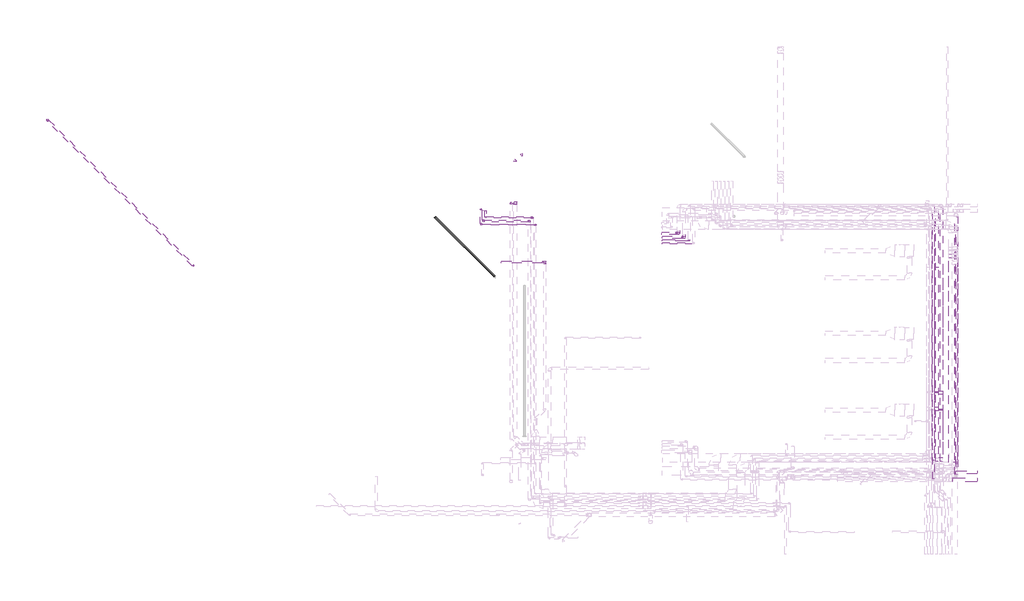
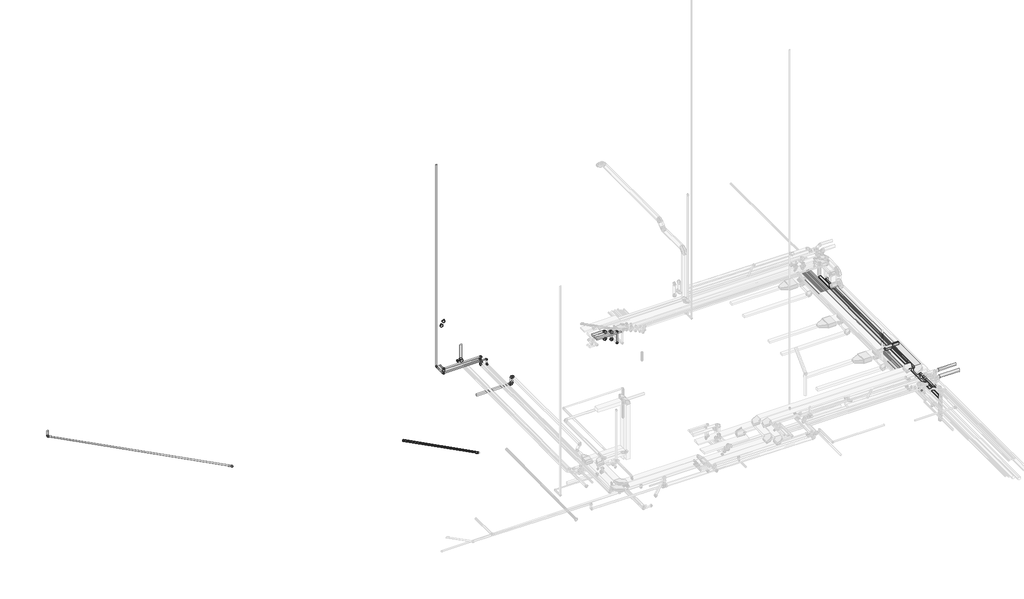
# One storey, part 9 of 12: 30 pipe segments, 22 pipe fittings, 5 duct segments, 4 duct fittings, 2 cable carrier segments.
"""IFC4 building model written with IfcOpenShell, lengths in millimetres."""

from ifc_helpers import new_model, si_unit, point, frame, frame_2d, origin, place, context, project, spatial, polyline, circle_curve, trimmed, segment, composite_curve, outline, extrude, transform, mapped, element, save
from ifc_brep_helpers import plane_surface, cylinder_surface, advanced_brep
from components import m_codo_rectangular_radio_apt_1_w_cd8a0157, m_codo_rectangular_radio_apt_1_w_e8c11995, pipe_fitting_ae9a0cda, pipe_fitting_aab77541, pipe_fitting_eb148d84, pipe_fitting_3b77712d, pipe_fitting_fa3f9604, pipe_fitting_87aeffad, pipe_fitting_e0fa64fe, pipe_fitting_ff364d05, pipe_fitting_573a4a97, pipe_fitting_e24cc5b0, pipe_fitting_6ea3b2c3, pipe_fitting_b6c68e63

model = new_model("IFC4")

# Units and contexts
model_context = context("Model", 3, world=origin())
ifc_project = project(units=[si_unit("LENGTHUNIT", "METRE", prefix="MILLI")], contexts=[model_context])

# Site, building, storey
site = spatial("IfcSite", under=ifc_project)
building = spatial("IfcBuilding", under=site)
storey = spatial("IfcBuildingStorey", under=building, Name="Nivell -01 PS1_PK", Elevation=1850.0)

# Cable carrier segments
placement = place(None, origin())
element("IfcCableCarrierSegment", 1, ObjectType="EL", at=placement, inside=storey, context=model_context, shape_type="SweptSolid", body=[
    extrude(outline(polyline([(33067.3540629, 1397.9984631), (33667.3540629, 1397.9984631), (33667.3540629, -12478.0770603), (33067.3540629, -12478.0770603), (33067.3540629, 1397.9984631)])), frame((0.0, 0.0, 4050.0), z_axis=(0.0, 0.0, 1.0), x_axis=(1.0, 0.0, 0.0)), (0.0, 0.0, 1.0), 100.0),
])
element("IfcCableCarrierSegment", 2, ObjectType="EL", at=placement, inside=storey, context=model_context, shape_type="SweptSolid", body=[
    extrude(outline(polyline([(33067.3540629, 1147.9859493), (33667.3540629, 1147.9859493), (33667.3540629, -12478.0770603), (33067.3540629, -12478.0770603), (33067.3540629, 1147.9859493)])), frame((0.0, 0.0, 4250.0), z_axis=(0.0, 0.0, 1.0), x_axis=(1.0, 0.0, 0.0)), (0.0, 0.0, 1.0), 100.0),
])

# Duct fittings
m_codo_rectangular_radio_apt_1_w_shape = m_codo_rectangular_radio_apt_1_w_cd8a0157(model_context)
element("IfcDuctFitting", 3, ObjectType="M_Codo rectangular - Radio : APT_1 W", at=placement, inside=storey, context=model_context, shape_type="MappedRepresentation", body=[
    mapped(m_codo_rectangular_radio_apt_1_w_shape, transform((32415.0957651, -7824.4030307, 4650.0), x_axis=(0.0, -1.0, 0.0), y_axis=(0.0, 0.0, 1.0), z_axis=(-1.0, 0.0, 0.0))),
])
element("IfcDuctFitting", 4, ObjectType="M_Codo rectangular - Radio : APT_1 W", at=placement, inside=storey, context=model_context, shape_type="MappedRepresentation", body=[
    mapped(m_codo_rectangular_radio_apt_1_w_shape, transform((32415.0957651, -8924.4030307, 5750.0), x_axis=(0.0, 1.0, 0.0), y_axis=(0.0, 0.0, -1.0), z_axis=(-1.0, 0.0, 0.0))),
])
m_codo_rectangular_radio_apt_1_w_2_shape = m_codo_rectangular_radio_apt_1_w_e8c11995(model_context)
element("IfcDuctFitting", 5, ObjectType="M_Codo rectangular - Radio : APT_1 W", at=placement, inside=storey, context=model_context, shape_type="MappedRepresentation", body=[
    mapped(m_codo_rectangular_radio_apt_1_w_2_shape, transform((6230.3976532, 856.9206384, 6150.0), x_axis=(0.0, 1.0, 0.0), y_axis=(0.0, 0.0, -1.0), z_axis=(-1.0, 0.0, 0.0))),
])
element("IfcDuctFitting", 6, ObjectType="M_Codo rectangular - Radio : APT_1 W", at=placement, inside=storey, context=model_context, shape_type="MappedRepresentation", body=[
    mapped(m_codo_rectangular_radio_apt_1_w_2_shape, transform((6230.3976532, 856.9206384, 5475.0), x_axis=(0.0, 0.0, -1.0), y_axis=(-1.0, 0.0, 0.0), z_axis=(0.0, 1.0, 0.0))),
])

# Duct segments
element("IfcDuctSegment", 7, ObjectType="APT_Fibra de vidre rígida", at=placement, inside=storey, context=model_context, shape_type="SweptSolid", body=[
    extrude(outline(polyline([(32665.0957651, -7741.5603182), (32165.0957651, -7741.5603182), (32165.0957651, 533.4396818), (32665.0957651, 533.4396818), (32665.0957651, -7741.5603182)])), frame((0.0, 0.0, 4550.0), z_axis=(0.0, 0.0, 1.0), x_axis=(1.0, 0.0, 0.0)), (0.0, 0.0, 1.0), 200.0),
])
element("IfcDuctSegment", 8, ObjectType="APT_Fibra de vidre rígida", at=placement, inside=storey, context=model_context, shape_type="SweptSolid", body=[
    extrude(outline(polyline([(32665.0957651, -12178.0770603), (32165.0957651, -12178.0770603), (32165.0957651, -9007.2457432), (32665.0957651, -9007.2457432), (32665.0957651, -12178.0770603)])), frame((0.0, 0.0, 5650.0), z_axis=(0.0, 0.0, 1.0), x_axis=(1.0, 0.0, 0.0)), (0.0, 0.0, 1.0), 200.0),
])
element("IfcDuctSegment", 9, ObjectType="APT_Fibra de vidre rígida", at=placement, inside=storey, context=model_context, shape_type="SweptSolid", body=[
    extrude(outline(polyline([(0.0, -500.0), (0.0, 0.0), (1389.9494937, 0.0), (1389.9494937, -500.0), (0.0, -500.0)])), frame((32665.0957651, -7953.6923526, 4637.8679656), z_axis=(0.0, 0.7071067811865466, 0.7071067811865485), x_axis=(0.0, -0.7071067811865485, 0.7071067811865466)), (0.0, 0.0, 1.0), 200.0),
])
element("IfcDuctSegment", 10, ObjectType="APT_Fibra de vidre rígida", at=placement, inside=storey, context=model_context, shape_type="SweptSolid", body=[
    extrude(outline(polyline([(6080.3976532, 931.9206384), (6080.3976532, 781.9206384), (3351.1206995, 781.9206384), (3351.1206995, 931.9206384), (6080.3976532, 931.9206384)])), frame((0.0, 0.0, 5400.0), z_axis=(0.0, 0.0, 1.0), x_axis=(1.0, 0.0, 0.0)), (0.0, 0.0, 1.0), 150.0),
])
element("IfcDuctSegment", 11, ObjectType="APT_Fibra de vidre rígida", at=placement, inside=storey, context=model_context, shape_type="SweptSolid", body=[
    extrude(outline(polyline([(6305.3976532, 781.9206384), (6155.3976532, 781.9206384), (6155.3976532, 931.9206384), (6305.3976532, 931.9206384), (6305.3976532, 781.9206384)])), frame((0.0, 0.0, 5625.0), z_axis=(0.0, 0.0, 1.0), x_axis=(1.0, 0.0, 0.0)), (0.0, 0.0, 1.0), 375.0),
])

# Pipe fittings
pipe_fitting_shape = pipe_fitting_ae9a0cda(model_context)
element("IfcPipeFitting", 12, ObjectType="M_Codo - Genérico : Estándar", at=placement, inside=storey, context=model_context, shape_type="MappedRepresentation", body=[
    mapped(pipe_fitting_shape, transform((4699.7867322, 7990.2242431, 7193.0048372), x_axis=(-0.9999500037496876, 0.0, -0.009999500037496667), y_axis=(4.141685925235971e-05, -0.9999914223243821, -0.004141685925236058), z_axis=(-0.009999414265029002, -0.004141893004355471, 0.9999414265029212))),
])
pipe_fitting_2_shape = pipe_fitting_aab77541(model_context)
element("IfcPipeFitting", 13, ObjectType="M_Codo - Genérico : Estándar", at=placement, inside=storey, context=model_context, shape_type="MappedRepresentation", body=[
    mapped(pipe_fitting_2_shape, transform((4010.393115, 4779.6569696, 5866.4205899), x_axis=(0.0, 0.0, -1.0), y_axis=(0.0, -1.0, 0.0), z_axis=(-1.0, 0.0, 0.0))),
])
pipe_fitting_3_shape = pipe_fitting_eb148d84(model_context)
element("IfcPipeFitting", 14, ObjectType="M_Codo - Genérico : Estándar", at=placement, inside=storey, context=model_context, shape_type="MappedRepresentation", body=[
    mapped(pipe_fitting_3_shape, transform((4287.2876623, 4781.2592396, 5862.7256155), x_axis=(-0.00010438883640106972, 0.0, -0.9999999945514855), y_axis=(1.0438883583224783e-06, -0.9999999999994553, -1.0897029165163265e-10), z_axis=(-0.9999999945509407, -1.0438883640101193e-06, 0.00010438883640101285))),
])
pipe_fitting_4_shape = pipe_fitting_3b77712d(model_context)
element("IfcPipeFitting", 15, ObjectType="M_Codo - Genérico : Estándar", at=placement, inside=storey, context=model_context, shape_type="MappedRepresentation", body=[
    mapped(pipe_fitting_4_shape, transform((15836.9686999, 2293.032262, 4795.0), x_axis=(-4.25689019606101e-05, -0.9999999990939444, 0.0), y_axis=(0.0, 0.0, -1.0000000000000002), z_axis=(0.9999999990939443, -4.256890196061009e-05, 0.0))),
])
element("IfcPipeFitting", 16, ObjectType="M_Codo - Genérico : Estándar", at=placement, inside=storey, context=model_context, shape_type="MappedRepresentation", body=[
    mapped(pipe_fitting_4_shape, transform((15836.9686999, 2293.032262, 5850.0), x_axis=(0.0, 0.0, 1.0), y_axis=(0.999999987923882, -0.00015540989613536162, 0.0), z_axis=(0.00015540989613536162, 0.999999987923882, 0.0))),
])
pipe_fitting_5_shape = pipe_fitting_fa3f9604(model_context)
element("IfcPipeFitting", 17, ObjectType="M_Codo - Genérico : Estándar", at=placement, inside=storey, context=model_context, shape_type="MappedRepresentation", body=[
    mapped(pipe_fitting_5_shape, transform((5410.4381725, 3815.2793628, 5895.0), x_axis=(4.15346841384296e-05, 0.999999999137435, 0.0), y_axis=(0.0, 0.0, 1.0), z_axis=(0.999999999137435, -4.15346841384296e-05, 0.0))),
])
element("IfcPipeFitting", 18, ObjectType="M_Codo - Genérico : Estándar", at=placement, inside=storey, context=model_context, shape_type="MappedRepresentation", body=[
    mapped(pipe_fitting_5_shape, transform((5410.4381725, 3815.2793628, 6355.0), x_axis=(0.0, 0.0, 1.0), y_axis=(-1.0, 0.0, 0.0), z_axis=(0.0, -1.0, 0.0))),
])
element("IfcPipeFitting", 19, ObjectType="M_Codo - Genérico : Estándar", at=placement, inside=storey, context=model_context, shape_type="MappedRepresentation", body=[
    mapped(pipe_fitting_5_shape, transform((2292.2371387, 3815.2793628, 6355.0), x_axis=(0.0, -1.0, 0.0), y_axis=(1.0, 0.0, 0.0), z_axis=(0.0, 0.0, 1.0))),
])
pipe_fitting_6_shape = pipe_fitting_87aeffad(model_context)
element("IfcPipeFitting", 20, ObjectType="M_Codo - Genérico : Estándar", at=placement, inside=storey, context=model_context, shape_type="MappedRepresentation", body=[
    mapped(pipe_fitting_6_shape, transform((2006.123299, 4345.0540394, 6345.0), x_axis=(0.0, 0.0, -1.0), y_axis=(0.0, -1.0, 0.0), z_axis=(-1.0, 0.0, 0.0))),
])
element("IfcPipeFitting", 21, ObjectType="M_Codo - Genérico : Estándar", at=placement, inside=storey, context=model_context, shape_type="MappedRepresentation", body=[
    mapped(pipe_fitting_6_shape, transform((5610.4183585, 3341.4766977, 5905.0), x_axis=(4.172494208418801e-05, 0.9999999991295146, 0.0), y_axis=(0.0, 0.0, 1.0), z_axis=(0.9999999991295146, -4.172494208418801e-05, 0.0))),
])
element("IfcPipeFitting", 22, ObjectType="M_Codo - Genérico : Estándar", at=placement, inside=storey, context=model_context, shape_type="MappedRepresentation", body=[
    mapped(pipe_fitting_6_shape, transform((5610.4183585, 3341.4766977, 6345.0), x_axis=(0.0, 0.0, 1.0), y_axis=(-0.9999999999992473, 1.2270001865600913e-06, 0.0), z_axis=(-1.2270001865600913e-06, -0.9999999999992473, 0.0))),
])
pipe_fitting_7_shape = pipe_fitting_e0fa64fe(model_context)
element("IfcPipeFitting", 23, ObjectType="M_Codo - Genérico : Estándar", at=placement, inside=storey, context=model_context, shape_type="MappedRepresentation", body=[
    mapped(pipe_fitting_7_shape, transform((5210.4279515, 3570.2793628, 5887.5), x_axis=(4.1534097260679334e-05, 0.9999999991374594, 0.0), y_axis=(0.0, 0.0, 1.0), z_axis=(0.9999999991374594, -4.1534097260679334e-05, 0.0))),
])
element("IfcPipeFitting", 24, ObjectType="M_Codo - Genérico : Estándar", at=placement, inside=storey, context=model_context, shape_type="MappedRepresentation", body=[
    mapped(pipe_fitting_7_shape, transform((5210.4279515, 3570.2793628, 6362.5), x_axis=(0.0, 0.0, 1.0), y_axis=(-1.0, 0.0, 0.0), z_axis=(0.0, -1.0, 0.0))),
])
element("IfcPipeFitting", 25, ObjectType="M_Codo - Genérico : Estándar", at=placement, inside=storey, context=model_context, shape_type="MappedRepresentation", body=[
    mapped(pipe_fitting_7_shape, transform((2147.2371387, 3570.2793628, 6362.5), x_axis=(0.0, -1.0, 0.0), y_axis=(1.0, 0.0, 0.0), z_axis=(0.0, 0.0, 1.0))),
])
pipe_fitting_8_shape = pipe_fitting_ff364d05(model_context)
element("IfcPipeFitting", 26, ObjectType="M_Codo - Genérico : Estándar", at=placement, inside=storey, context=model_context, shape_type="MappedRepresentation", body=[
    mapped(pipe_fitting_8_shape, transform((4286.9292509, 7577.3667618, 7187.1661507), x_axis=(2.387406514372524e-06, 0.999950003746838, 0.009999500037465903), y_axis=(-0.999991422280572, 4.3804224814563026e-05, -0.004141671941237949), z_axis=(-0.004141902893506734, -0.009999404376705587, 0.9999414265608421))),
])
pipe_fitting_9_shape = pipe_fitting_573a4a97(model_context)
element("IfcPipeFitting", 27, ObjectType="M_Codo - Genérico : Estándar", at=placement, inside=storey, context=model_context, shape_type="MappedRepresentation", body=[
    mapped(pipe_fitting_9_shape, transform((2006.123299, 3341.4809975, 6345.0), x_axis=(0.0, -1.0, 0.0), y_axis=(1.0, 0.0, 0.0), z_axis=(0.0, 0.0, 1.0))),
])
pipe_fitting_10_shape = pipe_fitting_e24cc5b0(model_context)
element("IfcPipeFitting", 28, ObjectType="M_Codo - Genérico : Estándar", at=placement, inside=storey, context=model_context, shape_type="MappedRepresentation", body=[
    mapped(pipe_fitting_10_shape, transform((-26800.5772832, 10293.1021226, 6687.051395), x_axis=(-4.927413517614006e-05, 3.484774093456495e-05, -0.9999999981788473), y_axis=(0.7070892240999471, -0.7071243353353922, -5.94828957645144e-05), z_axis=(-0.7071243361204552, -0.7070892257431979, 1.0202477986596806e-05))),
])
pipe_fitting_11_shape = pipe_fitting_6ea3b2c3(model_context)
element("IfcPipeFitting", 29, ObjectType="M_Codo - Genérico : Estándar", at=placement, inside=storey, context=model_context, shape_type="MappedRepresentation", body=[
    mapped(pipe_fitting_11_shape, transform((-17109.8207429, 601.8645148, 6550.0), x_axis=(0.7070893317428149, -0.7070535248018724, -0.009999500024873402), y_axis=(0.7070535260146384, 0.7071479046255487, -0.004141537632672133), z_axis=(0.009999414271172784, -0.004141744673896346, 0.9999414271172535))),
])
pipe_fitting_12_shape = pipe_fitting_b6c68e63(model_context)
element("IfcPipeFitting", 30, ObjectType="Codo 90º Soldadura a Tope SDR 11 BluePipe : Estándar", at=placement, inside=storey, context=model_context, shape_type="MappedRepresentation", body=[
    mapped(pipe_fitting_12_shape, transform((15117.1652487, 2762.9498438, 5850.0019674), x_axis=(0.9999999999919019, -2.5073508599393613e-06, -3.1479117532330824e-06), y_axis=(3.147912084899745e-06, 1.322737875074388e-07, 0.9999999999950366), z_axis=(-2.5073504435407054e-06, -0.9999999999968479, 1.3228168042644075e-07))),
])
element("IfcPipeFitting", 31, ObjectType="Codo 90º Soldadura a Tope SDR 11 BluePipe : Estándar", at=placement, inside=storey, context=model_context, shape_type="MappedRepresentation", body=[
    mapped(pipe_fitting_12_shape, transform((15117.1633647, 2762.9497843, 5049.9997398), x_axis=(4.769613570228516e-07, 1.3228287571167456e-07, -0.9999999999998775), y_axis=(-4.3362156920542e-05, -0.999999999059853, -1.3230355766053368e-07), z_axis=(-0.999999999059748, 4.336215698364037e-05, -4.769556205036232e-07))),
])
element("IfcPipeFitting", 32, ObjectType="Codo 90º Soldadura a Tope SDR 11 BluePipe : Estándar", at=placement, inside=storey, context=model_context, shape_type="MappedRepresentation", body=[
    mapped(pipe_fitting_12_shape, transform((15497.1730933, 2492.9250903, 5050.0), x_axis=(-4.302880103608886e-05, -0.9999999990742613, 0.0), y_axis=(0.0, 0.0, -1.0000000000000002), z_axis=(0.9999999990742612, -4.302880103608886e-05, 0.0))),
])
element("IfcPipeFitting", 33, ObjectType="Codo 90º Soldadura a Tope SDR 11 BluePipe : Estándar", at=placement, inside=storey, context=model_context, shape_type="MappedRepresentation", body=[
    mapped(pipe_fitting_12_shape, transform((15497.1730933, 2492.9250903, 5850.0), x_axis=(0.0, 0.0, 1.0), y_axis=(0.999999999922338, -1.2462908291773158e-05, 0.0), z_axis=(1.2462908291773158e-05, 0.999999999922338, 0.0))),
])

# Pipe segments
element("IfcPipeSegment", 34, ObjectType="PVC_Baixant", at=placement, inside=storey, context=model_context, shape_type="SweptSolid", body=[
    extrude(outline(composite_curve([segment(trimmed(circle_curve(frame_2d((0.0, -62.5)), 62.5), [point((-62.5, -62.5000004))], [point((-4e-07, 0.0))], False, "CARTESIAN"), True, "CONTINUOUS"), segment(trimmed(circle_curve(frame_2d((0.0, -62.5)), 62.5), [point((-4e-07, 0.0))], [point((62.5, -62.4999996))], False, "CARTESIAN"), True, "CONTINUOUS"), segment(trimmed(circle_curve(frame_2d((0.0, -62.5)), 62.5), [point((62.5, -62.4999996))], [point((3e-07, -125.0))], False, "CARTESIAN"), True, "CONTINUOUS"), segment(trimmed(circle_curve(frame_2d((0.0, -62.5)), 62.5), [point((3e-07, -125.0))], [point((-62.5, -62.5000004))], False, "CARTESIAN"), True, "CONTINUOUS")], self_intersect=False)), frame((-26800.573798, 10230.5996581, 6757.7762323), z_axis=(-5.91012245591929e-05, -9.706712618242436e-05, 0.9999999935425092), x_axis=(-0.9999999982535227, 5.7367870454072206e-09, -5.910122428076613e-05)), (0.0, 0.0, 1.0), 412.2177965),
])
element("IfcPipeSegment", 35, ObjectType="PVC_Baixant", at=placement, inside=storey, context=model_context, shape_type="SweptSolid", body=[
    extrude(outline(composite_curve([segment(trimmed(circle_curve(frame_2d((0.0, -62.5000001)), 62.5), [point((-62.4968759, -63.1249064))], [point((-0.6249063, -0.0031242))], False, "CARTESIAN"), True, "CONTINUOUS"), segment(trimmed(circle_curve(frame_2d((0.0, -62.5000001)), 62.5), [point((-0.6249063, -0.0031242))], [point((62.4968759, -61.8750937))], False, "CARTESIAN"), True, "CONTINUOUS"), segment(trimmed(circle_curve(frame_2d((0.0, -62.5000001)), 62.5), [point((62.4968759, -61.8750937))], [point((0.6249064, -124.9968759))], False, "CARTESIAN"), True, "CONTINUOUS"), segment(trimmed(circle_curve(frame_2d((0.0, -62.5000001)), 62.5), [point((0.6249064, -124.9968759))], [point((-62.4968759, -63.1249064))], False, "CARTESIAN"), True, "CONTINUOUS")], self_intersect=False)), frame((-17130.7418112, 623.6682967, 6487.8021098), z_axis=(-0.7070538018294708, 0.7070890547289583, 0.009999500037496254), x_axis=(0.7071597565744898, 0.7069831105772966, 0.00999800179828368)), (0.0, 0.0, 1.0), 13605.5062464),
])
element("IfcPipeSegment", 36, ObjectType="PP_FN", at=placement, inside=storey, context=model_context, shape_type="SweptSolid", body=[
    extrude(outline(composite_curve([segment(trimmed(circle_curve(frame_2d((6345.0, 2006.123299)), 45.0), [point((6345.0, 2051.123299))], [point((6390.0, 2006.123299))], False, "CARTESIAN"), True, "CONTINUOUS"), segment(trimmed(circle_curve(frame_2d((6345.0, 2006.123299)), 45.0), [point((6390.0, 2006.123299))], [point((6345.0, 1961.123299))], False, "CARTESIAN"), True, "CONTINUOUS"), segment(trimmed(circle_curve(frame_2d((6345.0, 2006.123299)), 45.0), [point((6345.0, 1961.123299))], [point((6300.0, 2006.123299))], False, "CARTESIAN"), True, "CONTINUOUS"), segment(trimmed(circle_curve(frame_2d((6345.0, 2006.123299)), 45.0), [point((6300.0, 2006.123299))], [point((6345.0, 2051.123299))], False, "CARTESIAN"), True, "CONTINUOUS")], self_intersect=False)), frame((0.0, 3393.8684332, 0.0), z_axis=(0.0, 1.0, 0.0), x_axis=(0.0, 0.0, 1.0)), (0.0, 0.0, 1.0), 898.7981062),
])
element("IfcPipeSegment", 37, ObjectType="PP_FN", at=placement, inside=storey, context=model_context, shape_type="SweptSolid", body=[
    extrude(outline(composite_curve([segment(trimmed(circle_curve(frame_2d((2006.123299, 4345.0540394)), 45.0), [point((2051.123299, 4345.0540394))], [point((2006.123299, 4300.0540394))], False, "CARTESIAN"), True, "CONTINUOUS"), segment(trimmed(circle_curve(frame_2d((2006.123299, 4345.0540394)), 45.0), [point((2006.123299, 4300.0540394))], [point((1961.123299, 4345.0540394))], False, "CARTESIAN"), True, "CONTINUOUS"), segment(trimmed(circle_curve(frame_2d((2006.123299, 4345.0540394)), 45.0), [point((1961.123299, 4345.0540394))], [point((2006.123299, 4390.0540394))], False, "CARTESIAN"), True, "CONTINUOUS"), segment(trimmed(circle_curve(frame_2d((2006.123299, 4345.0540394)), 45.0), [point((2006.123299, 4390.0540394))], [point((2051.123299, 4345.0540394))], False, "CARTESIAN"), True, "CONTINUOUS")], self_intersect=False)), frame((0.0, 0.0, 6397.3875), z_axis=(0.0, 0.0, 1.0), x_axis=(1.0, 0.0, 0.0)), (0.0, 0.0, 1.0), 17656.98125),
])
element("IfcPipeSegment", 38, ObjectType="PP_FN", at=placement, inside=storey, context=model_context, shape_type="SweptSolid", body=[
    extrude(outline(composite_curve([segment(trimmed(circle_curve(frame_2d((6355.0, 2292.2371387)), 55.0), [point((6355.0, 2237.2371387))], [point((6300.0, 2292.2371387))], False, "CARTESIAN"), True, "CONTINUOUS"), segment(trimmed(circle_curve(frame_2d((6355.0, 2292.2371387)), 55.0), [point((6300.0, 2292.2371387))], [point((6355.0, 2347.2371387))], False, "CARTESIAN"), True, "CONTINUOUS"), segment(trimmed(circle_curve(frame_2d((6355.0, 2292.2371387)), 55.0), [point((6355.0, 2347.2371387))], [point((6410.0, 2292.2371387))], False, "CARTESIAN"), True, "CONTINUOUS"), segment(trimmed(circle_curve(frame_2d((6355.0, 2292.2371387)), 55.0), [point((6410.0, 2292.2371387))], [point((6355.0, 2237.2371387))], False, "CARTESIAN"), True, "CONTINUOUS")], self_intersect=False)), frame((0.0, 3878.2168628, 0.0), z_axis=(0.0, 1.0, 0.0), x_axis=(0.0, 0.0, 1.0)), (0.0, 0.0, 1.0), 402.0625),
])
element("IfcPipeSegment", 39, ObjectType="PP_FN", at=placement, inside=storey, context=model_context, shape_type="SweptSolid", body=[
    extrude(outline(composite_curve([segment(trimmed(circle_curve(frame_2d((3815.2793628, 6355.0)), 55.0), [point((3870.2793628, 6355.0))], [point((3815.2793628, 6300.0))], False, "CARTESIAN"), True, "CONTINUOUS"), segment(trimmed(circle_curve(frame_2d((3815.2793628, 6355.0)), 55.0), [point((3815.2793628, 6300.0))], [point((3760.2793628, 6355.0))], False, "CARTESIAN"), True, "CONTINUOUS"), segment(trimmed(circle_curve(frame_2d((3815.2793628, 6355.0)), 55.0), [point((3760.2793628, 6355.0))], [point((3815.2793628, 6410.0))], False, "CARTESIAN"), True, "CONTINUOUS"), segment(trimmed(circle_curve(frame_2d((3815.2793628, 6355.0)), 55.0), [point((3815.2793628, 6410.0))], [point((3870.2793628, 6355.0))], False, "CARTESIAN"), True, "CONTINUOUS")], self_intersect=False)), frame((2355.1746387, 0.0, 0.0), z_axis=(1.0, 0.0, 0.0), x_axis=(0.0, 1.0, 0.0)), (0.0, 0.0, 1.0), 2992.3260338),
])
element("IfcPipeSegment", 40, ObjectType="PP_FN", at=placement, inside=storey, context=model_context, shape_type="SweptSolid", body=[
    extrude(outline(composite_curve([segment(trimmed(circle_curve(frame_2d((6362.5, 2147.2371387)), 62.5), [point((6362.5, 2209.7371387))], [point((6425.0, 2147.2371387))], False, "CARTESIAN"), True, "CONTINUOUS"), segment(trimmed(circle_curve(frame_2d((6362.5, 2147.2371387)), 62.5), [point((6425.0, 2147.2371387))], [point((6362.5, 2084.7371387))], False, "CARTESIAN"), True, "CONTINUOUS"), segment(trimmed(circle_curve(frame_2d((6362.5, 2147.2371387)), 62.5), [point((6362.5, 2084.7371387))], [point((6300.0, 2147.2371387))], False, "CARTESIAN"), True, "CONTINUOUS"), segment(trimmed(circle_curve(frame_2d((6362.5, 2147.2371387)), 62.5), [point((6300.0, 2147.2371387))], [point((6362.5, 2209.7371387))], False, "CARTESIAN"), True, "CONTINUOUS")], self_intersect=False)), frame((0.0, 3641.7168628, 0.0), z_axis=(0.0, 1.0, 0.0), x_axis=(0.0, 0.0, 1.0)), (0.0, 0.0, 1.0), 638.5625),
])
element("IfcPipeSegment", 41, ObjectType="PP_FN", at=placement, inside=storey, context=model_context, shape_type="SweptSolid", body=[
    extrude(outline(composite_curve([segment(trimmed(circle_curve(frame_2d((3570.2793628, 6362.5)), 62.5), [point((3632.7793628, 6362.5))], [point((3570.2793628, 6300.0))], False, "CARTESIAN"), True, "CONTINUOUS"), segment(trimmed(circle_curve(frame_2d((3570.2793628, 6362.5)), 62.5), [point((3570.2793628, 6300.0))], [point((3507.7793628, 6362.5))], False, "CARTESIAN"), True, "CONTINUOUS"), segment(trimmed(circle_curve(frame_2d((3570.2793628, 6362.5)), 62.5), [point((3507.7793628, 6362.5))], [point((3570.2793628, 6425.0))], False, "CARTESIAN"), True, "CONTINUOUS"), segment(trimmed(circle_curve(frame_2d((3570.2793628, 6362.5)), 62.5), [point((3570.2793628, 6425.0))], [point((3632.7793628, 6362.5))], False, "CARTESIAN"), True, "CONTINUOUS")], self_intersect=False)), frame((2218.6746387, 0.0, 0.0), z_axis=(1.0, 0.0, 0.0), x_axis=(0.0, 1.0, 0.0)), (0.0, 0.0, 1.0), 2920.3158128),
])
element("IfcPipeSegment", 42, ObjectType="PP_FN", at=placement, inside=storey, context=model_context, shape_type="SweptSolid", body=[
    extrude(outline(composite_curve([segment(trimmed(circle_curve(frame_2d((0.0, 45.0)), 45.0), [point((-45.0, 45.0))], [point((0.0, 90.0))], False, "CARTESIAN"), True, "CONTINUOUS"), segment(trimmed(circle_curve(frame_2d((0.0, 45.0)), 45.0), [point((0.0, 90.0))], [point((45.0, 45.0))], False, "CARTESIAN"), True, "CONTINUOUS"), segment(trimmed(circle_curve(frame_2d((0.0, 45.0)), 45.0), [point((45.0, 45.0))], [point((0.0, 0.0))], False, "CARTESIAN"), True, "CONTINUOUS"), segment(trimmed(circle_curve(frame_2d((0.0, 45.0)), 45.0), [point((0.0, 0.0))], [point((-45.0, 45.0))], False, "CARTESIAN"), True, "CONTINUOUS")], self_intersect=False)), frame((5558.0308585, 3341.476762, 6300.0), z_axis=(-0.9999999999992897, 1.1919382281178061e-06, 0.0), x_axis=(-1.1919382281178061e-06, -0.9999999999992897, 0.0)), (0.0, 0.0, 1.0), 3499.5201238),
])
element("IfcPipeSegment", 43, ObjectType="PVC_Baixant", at=placement, inside=storey, context=model_context, shape_type="SweptSolid", body=[
    extrude(outline(composite_curve([segment(trimmed(circle_curve(frame_2d((0.0, -62.5000001)), 62.5), [point((-62.4968759, -63.1249063))], [point((-0.6249063, -0.0031241))], False, "CARTESIAN"), True, "CONTINUOUS"), segment(trimmed(circle_curve(frame_2d((0.0, -62.5000001)), 62.5), [point((-0.6249063, -0.0031241))], [point((62.4968759, -61.8750938))], False, "CARTESIAN"), True, "CONTINUOUS"), segment(trimmed(circle_curve(frame_2d((0.0, -62.5000001)), 62.5), [point((62.4968759, -61.8750938))], [point((0.6249063, -124.9968759))], False, "CARTESIAN"), True, "CONTINUOUS"), segment(trimmed(circle_curve(frame_2d((0.0, -62.5000001)), 62.5), [point((0.6249063, -124.9968759))], [point((-62.4968759, -63.1249063))], False, "CARTESIAN"), True, "CONTINUOUS")], self_intersect=False)), frame((2910.2523588, -114.5385303, 1116.7132316), z_axis=(-0.7070537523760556, 0.7070891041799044, 0.009999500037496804), x_axis=(0.7071598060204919, 0.7069830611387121, 0.009998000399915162)), (0.0, 0.0, 1.0), 5599.0585636),
])
element("IfcPipeSegment", 44, ObjectType="PVC_Baixant", at=placement, inside=storey, context=model_context, shape_type="SweptSolid", body=[
    extrude(outline(composite_curve([segment(trimmed(circle_curve(frame_2d((0.0, 100.0)), 100.0), [point((-100.0, 100.0))], [point((0.0, 200.0))], False, "CARTESIAN"), True, "CONTINUOUS"), segment(trimmed(circle_curve(frame_2d((0.0, 100.0)), 100.0), [point((0.0, 200.0))], [point((100.0, 100.0))], False, "CARTESIAN"), True, "CONTINUOUS"), segment(trimmed(circle_curve(frame_2d((0.0, 100.0)), 100.0), [point((100.0, 100.0))], [point((0.0, 0.0))], False, "CARTESIAN"), True, "CONTINUOUS"), segment(trimmed(circle_curve(frame_2d((0.0, 100.0)), 100.0), [point((0.0, 0.0))], [point((-100.0, 100.0))], False, "CARTESIAN"), True, "CONTINUOUS")], self_intersect=False)), frame((4287.298983, 4681.2592396, 5971.1732167), z_axis=(0.00010387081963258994, 0.0, 0.9999999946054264), x_axis=(0.9999999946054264, 0.0, -0.00010387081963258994)), (0.0, 0.0, 1.0), 1206.7953442),
])
element("IfcPipeSegment", 45, ObjectType="PP_FN", at=placement, inside=storey, context=model_context, shape_type="SweptSolid", body=[
    extrude(outline(composite_curve([segment(trimmed(circle_curve(frame_2d((5410.4381725, 3815.2793628)), 55.0), [point((5355.4381725, 3815.2793628))], [point((5410.4381725, 3870.2793628))], False, "CARTESIAN"), True, "CONTINUOUS"), segment(trimmed(circle_curve(frame_2d((5410.4381725, 3815.2793628)), 55.0), [point((5410.4381725, 3870.2793628))], [point((5465.4381725, 3815.2793628))], False, "CARTESIAN"), True, "CONTINUOUS"), segment(trimmed(circle_curve(frame_2d((5410.4381725, 3815.2793628)), 55.0), [point((5465.4381725, 3815.2793628))], [point((5410.4381725, 3760.2793628))], False, "CARTESIAN"), True, "CONTINUOUS"), segment(trimmed(circle_curve(frame_2d((5410.4381725, 3815.2793628)), 55.0), [point((5410.4381725, 3760.2793628))], [point((5355.4381725, 3815.2793628))], False, "CARTESIAN"), True, "CONTINUOUS")], self_intersect=False)), frame((0.0, 0.0, 5957.9375), z_axis=(0.0, 0.0, 1.0), x_axis=(1.0, 0.0, 0.0)), (0.0, 0.0, 1.0), 334.125),
])
element("IfcPipeSegment", 46, ObjectType="PP_FN", at=placement, inside=storey, context=model_context, shape_type="SweptSolid", body=[
    extrude(outline(composite_curve([segment(trimmed(circle_curve(frame_2d((5210.4279515, 3570.2793628)), 62.5), [point((5147.9279515, 3570.2793628))], [point((5210.4279515, 3632.7793628))], False, "CARTESIAN"), True, "CONTINUOUS"), segment(trimmed(circle_curve(frame_2d((5210.4279515, 3570.2793628)), 62.5), [point((5210.4279515, 3632.7793628))], [point((5272.9279515, 3570.2793628))], False, "CARTESIAN"), True, "CONTINUOUS"), segment(trimmed(circle_curve(frame_2d((5210.4279515, 3570.2793628)), 62.5), [point((5272.9279515, 3570.2793628))], [point((5210.4279515, 3507.7793628))], False, "CARTESIAN"), True, "CONTINUOUS"), segment(trimmed(circle_curve(frame_2d((5210.4279515, 3570.2793628)), 62.5), [point((5210.4279515, 3507.7793628))], [point((5147.9279515, 3570.2793628))], False, "CARTESIAN"), True, "CONTINUOUS")], self_intersect=False)), frame((0.0, 0.0, 5958.9375), z_axis=(0.0, 0.0, 1.0), x_axis=(1.0, 0.0, 0.0)), (0.0, 0.0, 1.0), 332.125),
])
element("IfcPipeSegment", 47, ObjectType="PP_FN", at=placement, inside=storey, context=model_context, shape_type="SweptSolid", body=[
    extrude(outline(composite_curve([segment(trimmed(circle_curve(frame_2d((5610.4183585, 3341.4766977)), 45.0), [point((5565.4183585, 3341.4766977))], [point((5610.4183585, 3386.4766977))], False, "CARTESIAN"), True, "CONTINUOUS"), segment(trimmed(circle_curve(frame_2d((5610.4183585, 3341.4766977)), 45.0), [point((5610.4183585, 3386.4766977))], [point((5655.4183585, 3341.4766977))], False, "CARTESIAN"), True, "CONTINUOUS"), segment(trimmed(circle_curve(frame_2d((5610.4183585, 3341.4766977)), 45.0), [point((5655.4183585, 3341.4766977))], [point((5610.4183585, 3296.4766977))], False, "CARTESIAN"), True, "CONTINUOUS"), segment(trimmed(circle_curve(frame_2d((5610.4183585, 3341.4766977)), 45.0), [point((5610.4183585, 3296.4766977))], [point((5565.4183585, 3341.4766977))], False, "CARTESIAN"), True, "CONTINUOUS")], self_intersect=False)), frame((0.0, 0.0, 5957.3875), z_axis=(0.0, 0.0, 1.0), x_axis=(1.0, 0.0, 0.0)), (0.0, 0.0, 1.0), 335.225),
])
element("IfcPipeSegment", 48, ObjectType="PPR_CLI_Aquatherm Blue Pipe", at=placement, inside=storey, context=model_context, shape_type="SweptSolid", body=[
    extrude(outline(composite_curve([segment(trimmed(circle_curve(frame_2d((0.0, -80.0)), 80.0), [point((-80.0, -80.0))], [point((0.0, 0.0))], False, "CARTESIAN"), True, "CONTINUOUS"), segment(trimmed(circle_curve(frame_2d((0.0, -80.0)), 80.0), [point((0.0, 0.0))], [point((79.9999999, -80.0))], False, "CARTESIAN"), True, "CONTINUOUS"), segment(trimmed(circle_curve(frame_2d((0.0, -80.0)), 80.0), [point((79.9999999, -80.0))], [point((0.0, -160.0))], False, "CARTESIAN"), True, "CONTINUOUS"), segment(trimmed(circle_curve(frame_2d((0.0, -80.0)), 80.0), [point((0.0, -160.0))], [point((-80.0, -80.0))], False, "CARTESIAN"), True, "CONTINUOUS")], self_intersect=False)), frame((14037.1441316, 2492.9112561, 5770.0), z_axis=(0.999999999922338, 1.246290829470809e-05, 0.0), x_axis=(1.246290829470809e-05, -0.999999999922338, 0.0)), (0.0, 0.0, 1.0), 1315.0289618),
])
element("IfcPipeSegment", 49, ObjectType="PPR_CLI_Aquatherm Blue Pipe", at=placement, inside=storey, context=model_context, shape_type="SweptSolid", body=[
    extrude(outline(composite_curve([segment(trimmed(circle_curve(frame_2d((0.0, -55.0)), 55.0), [point((-55.0000001, -55.0))], [point((0.0, 0.0))], False, "CARTESIAN"), True, "CONTINUOUS"), segment(trimmed(circle_curve(frame_2d((0.0, -55.0)), 55.0), [point((0.0, 0.0))], [point((55.0, -55.0))], False, "CARTESIAN"), True, "CONTINUOUS"), segment(trimmed(circle_curve(frame_2d((0.0, -55.0)), 55.0), [point((55.0, -55.0))], [point((0.0, -110.0))], False, "CARTESIAN"), True, "CONTINUOUS"), segment(trimmed(circle_curve(frame_2d((0.0, -55.0)), 55.0), [point((0.0, -110.0))], [point((-55.0000001, -55.0))], False, "CARTESIAN"), True, "CONTINUOUS")], self_intersect=False)), frame((14037.1511197, 2292.7721147, 5795.0), z_axis=(0.9999999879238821, 0.00015540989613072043, 0.0), x_axis=(0.00015540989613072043, -0.9999999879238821, 0.0)), (0.0, 0.0, 1.0), 1736.8801019),
])
element("IfcPipeSegment", 50, ObjectType="PPR_CLI_Aquatherm Blue Pipe", at=placement, inside=storey, context=model_context, shape_type="SweptSolid", body=[
    extrude(outline(composite_curve([segment(trimmed(circle_curve(frame_2d((0.0, -55.0)), 55.0), [point((-55.0000001, -55.0))], [point((0.0, 0.0))], False, "CARTESIAN"), True, "CONTINUOUS"), segment(trimmed(circle_curve(frame_2d((0.0, -55.0)), 55.0), [point((0.0, 0.0))], [point((55.0, -55.0))], False, "CARTESIAN"), True, "CONTINUOUS"), segment(trimmed(circle_curve(frame_2d((0.0, -55.0)), 55.0), [point((55.0, -55.0))], [point((0.0, -110.0))], False, "CARTESIAN"), True, "CONTINUOUS"), segment(trimmed(circle_curve(frame_2d((0.0, -55.0)), 55.0), [point((0.0, -110.0))], [point((-55.0000001, -55.0))], False, "CARTESIAN"), True, "CONTINUOUS")], self_intersect=False)), frame((14037.159903, 2092.7822368, 5795.0), z_axis=(0.9999999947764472, 0.00010221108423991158, 0.0), x_axis=(0.00010221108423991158, -0.9999999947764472, 0.0)), (0.0, 0.0, 1.0), 2036.8795648),
])
element("IfcPipeSegment", 51, ObjectType="PPR_CLI_Aquatherm Blue Pipe", at=placement, inside=storey, context=model_context, shape_type="SweptSolid", body=[
    extrude(outline(composite_curve([segment(trimmed(circle_curve(frame_2d((0.0, -80.0)), 80.0), [point((-80.0, -80.0000105))], [point((-1.06e-05, 0.0))], False, "CARTESIAN"), True, "CONTINUOUS"), segment(trimmed(circle_curve(frame_2d((0.0, -80.0)), 80.0), [point((-1.06e-05, 0.0))], [point((80.0, -79.9999894))], False, "CARTESIAN"), True, "CONTINUOUS"), segment(trimmed(circle_curve(frame_2d((0.0, -80.0)), 80.0), [point((80.0, -79.9999894))], [point((1.05e-05, -160.0))], False, "CARTESIAN"), True, "CONTINUOUS"), segment(trimmed(circle_curve(frame_2d((0.0, -80.0)), 80.0), [point((1.05e-05, -160.0))], [point((-80.0, -80.0000105))], False, "CARTESIAN"), True, "CONTINUOUS")], self_intersect=False)), frame((14017.1341331, 2762.9479632, 5770.0024239), z_axis=(0.9999999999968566, 2.507350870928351e-06, 0.0), x_axis=(2.507350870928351e-06, -0.9999999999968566, 0.0)), (0.0, 0.0, 1.0), 955.0311156),
])
element("IfcPipeSegment", 52, ObjectType="PPR_CLI_Aquatherm Blue Pipe", at=placement, inside=storey, context=model_context, shape_type="SweptSolid", body=[
    extrude(outline(composite_curve([segment(trimmed(circle_curve(frame_2d((0.0, -80.0)), 80.0), [point((-80.0, -80.0))], [point((0.0, 0.0))], False, "CARTESIAN"), True, "CONTINUOUS"), segment(trimmed(circle_curve(frame_2d((0.0, -80.0)), 80.0), [point((0.0, 0.0))], [point((80.0, -80.0))], False, "CARTESIAN"), True, "CONTINUOUS"), segment(trimmed(circle_curve(frame_2d((0.0, -80.0)), 80.0), [point((80.0, -80.0))], [point((0.0, -160.0))], False, "CARTESIAN"), True, "CONTINUOUS"), segment(trimmed(circle_curve(frame_2d((0.0, -80.0)), 80.0), [point((0.0, -160.0))], [point((-80.0, -80.0))], False, "CARTESIAN"), True, "CONTINUOUS")], self_intersect=False)), frame((15117.1631868, 2682.9497572, 5194.9997504), z_axis=(3.147912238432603e-06, 1.322737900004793e-07, 0.9999999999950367), x_axis=(-0.9999999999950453, 0.0, 3.1479122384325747e-06)), (0.0, 0.0, 1.0), 510.0022276),
])
element("IfcPipeSegment", 53, ObjectType="PPR_CLI_Aquatherm Blue Pipe", at=placement, inside=storey, context=model_context, shape_type="SweptSolid", body=[
    extrude(outline(composite_curve([segment(trimmed(circle_curve(frame_2d((15497.1730933, 2492.9250903)), 80.0), [point((15417.1730933, 2492.9250903))], [point((15497.1730933, 2572.9250903))], False, "CARTESIAN"), True, "CONTINUOUS"), segment(trimmed(circle_curve(frame_2d((15497.1730933, 2492.9250903)), 80.0), [point((15497.1730933, 2572.9250903))], [point((15577.1730933, 2492.9250903))], False, "CARTESIAN"), True, "CONTINUOUS"), segment(trimmed(circle_curve(frame_2d((15497.1730933, 2492.9250903)), 80.0), [point((15577.1730933, 2492.9250903))], [point((15497.1730933, 2412.9250903))], False, "CARTESIAN"), True, "CONTINUOUS"), segment(trimmed(circle_curve(frame_2d((15497.1730933, 2492.9250903)), 80.0), [point((15497.1730933, 2412.9250903))], [point((15417.1730933, 2492.9250903))], False, "CARTESIAN"), True, "CONTINUOUS")], self_intersect=False)), frame((0.0, 0.0, 5195.0), z_axis=(0.0, 0.0, 1.0), x_axis=(1.0, 0.0, 0.0)), (0.0, 0.0, 1.0), 510.0),
])
element("IfcPipeSegment", 54, ObjectType="PPR_CLI_Aquatherm Blue Pipe", at=placement, inside=storey, context=model_context, shape_type="SweptSolid", body=[
    extrude(outline(composite_curve([segment(trimmed(circle_curve(frame_2d((15836.9686999, 2293.032262)), 55.0), [point((15781.9686999, 2293.032262))], [point((15836.9686999, 2348.032262))], False, "CARTESIAN"), True, "CONTINUOUS"), segment(trimmed(circle_curve(frame_2d((15836.9686999, 2293.032262)), 55.0), [point((15836.9686999, 2348.032262))], [point((15891.9686999, 2293.032262))], False, "CARTESIAN"), True, "CONTINUOUS"), segment(trimmed(circle_curve(frame_2d((15836.9686999, 2293.032262)), 55.0), [point((15891.9686999, 2293.032262))], [point((15836.9686999, 2238.032262))], False, "CARTESIAN"), True, "CONTINUOUS"), segment(trimmed(circle_curve(frame_2d((15836.9686999, 2293.032262)), 55.0), [point((15836.9686999, 2238.032262))], [point((15781.9686999, 2293.032262))], False, "CARTESIAN"), True, "CONTINUOUS")], self_intersect=False)), frame((0.0, 0.0, 4857.9375), z_axis=(0.0, 0.0, 1.0), x_axis=(1.0, 0.0, 0.0)), (0.0, 0.0, 1.0), 929.125),
])
element("IfcPipeSegment", 55, ObjectType="PPR_CLI_Aquatherm Blue Pipe", at=placement, inside=storey, context=model_context, shape_type="SweptSolid", body=[
    extrude(outline(composite_curve([segment(trimmed(circle_curve(frame_2d((0.0, 55.0)), 55.0), [point((0.0, 110.0))], [point((55.0, 55.0))], False, "CARTESIAN"), True, "CONTINUOUS"), segment(trimmed(circle_curve(frame_2d((0.0, 55.0)), 55.0), [point((55.0, 55.0))], [point((0.0, 0.0))], False, "CARTESIAN"), True, "CONTINUOUS"), segment(trimmed(circle_curve(frame_2d((0.0, 55.0)), 55.0), [point((0.0, 0.0))], [point((-55.0, 55.0))], False, "CARTESIAN"), True, "CONTINUOUS"), segment(trimmed(circle_curve(frame_2d((0.0, 55.0)), 55.0), [point((-55.0, 55.0))], [point((0.0, 110.0))], False, "CARTESIAN"), True, "CONTINUOUS")], self_intersect=False)), frame((32008.0080439, -13564.2364035, 4445.0), z_axis=(2.2515623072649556e-08, 0.9999999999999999, 0.0), x_axis=(0.0, 0.0, 1.0)), (0.0, 0.0, 1.0), 18140.5229562),
])
element("IfcPipeSegment", 56, ObjectType="PP_FN", at=placement, inside=storey, context=model_context, shape_type="SweptSolid", body=[
    extrude(outline(composite_curve([segment(trimmed(circle_curve(frame_2d((3905.0, 33608.2286578)), 45.0), [point((3905.0, 33563.2286578))], [point((3860.0, 33608.2286578))], False, "CARTESIAN"), True, "CONTINUOUS"), segment(trimmed(circle_curve(frame_2d((3905.0, 33608.2286578)), 45.0), [point((3860.0, 33608.2286578))], [point((3905.0, 33653.2286578))], False, "CARTESIAN"), True, "CONTINUOUS"), segment(trimmed(circle_curve(frame_2d((3905.0, 33608.2286578)), 45.0), [point((3905.0, 33653.2286578))], [point((3950.0, 33608.2286578))], False, "CARTESIAN"), True, "CONTINUOUS"), segment(trimmed(circle_curve(frame_2d((3905.0, 33608.2286578)), 45.0), [point((3950.0, 33608.2286578))], [point((3905.0, 33563.2286578))], False, "CARTESIAN"), True, "CONTINUOUS")], self_intersect=False)), frame((0.0, -12786.1729388, 0.0), z_axis=(0.0, 1.0, 0.0), x_axis=(0.0, 0.0, 1.0)), (0.0, 0.0, 1.0), 15775.225),
])
element("IfcPipeSegment", 57, ObjectType="PP_FN", at=placement, inside=storey, context=model_context, shape_type="SweptSolid", body=[
    extrude(outline(composite_curve([segment(trimmed(circle_curve(frame_2d((3675.0, 33608.2286578)), 55.0), [point((3675.0, 33553.2286578))], [point((3620.0, 33608.2286578))], False, "CARTESIAN"), True, "CONTINUOUS"), segment(trimmed(circle_curve(frame_2d((3675.0, 33608.2286578)), 55.0), [point((3620.0, 33608.2286578))], [point((3675.0, 33663.2286578))], False, "CARTESIAN"), True, "CONTINUOUS"), segment(trimmed(circle_curve(frame_2d((3675.0, 33608.2286578)), 55.0), [point((3675.0, 33663.2286578))], [point((3730.0, 33608.2286578))], False, "CARTESIAN"), True, "CONTINUOUS"), segment(trimmed(circle_curve(frame_2d((3675.0, 33608.2286578)), 55.0), [point((3730.0, 33608.2286578))], [point((3675.0, 33553.2286578))], False, "CARTESIAN"), True, "CONTINUOUS")], self_intersect=False)), frame((0.0, -12575.6229388, 0.0), z_axis=(0.0, 1.0, 0.0), x_axis=(0.0, 0.0, 1.0)), (0.0, 0.0, 1.0), 15754.125),
])
element("IfcPipeSegment", 58, ObjectType="PVC_Baixant", at=placement, inside=storey, context=model_context, shape_type="AdvancedBrep", body=[
    advanced_brep(
    [(33536.0679224, -13248.7164771, 5615.1027772), (33537.0518987, -13148.7164771, 5715.097936), (33536.067922, -13048.7164771, 5615.1027772), (33535.0839457, -13148.7164771, 5515.1076183), (34985.4228217, -13248.7164745, 5600.8407746), (34984.438845, -13148.7164745, 5500.8456158), (34985.4228214, -13048.7164745, 5600.8407746), (34986.4067981, -13148.7164745, 5700.8359334)],
    [
        (0, 1, circle_curve(frame((33536.0679224, -13148.7164771, 5615.1027772), z_axis=(-0.9999515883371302, 0.0, 0.009839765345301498), x_axis=(0.0, -1.0, 1.7532174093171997e-11)), 100.0)),
        (1, 2, circle_curve(frame((33536.0679222, -13148.7164771, 5615.1027772), z_axis=(-0.9999515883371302, 0.0, 0.009839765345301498), x_axis=(0.0, -1.0, 1.7532174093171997e-11)), 100.0)),
        (2, 3, circle_curve(frame((33536.067922, -13148.7164771, 5615.1027772), z_axis=(-0.9999515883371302, 0.0, 0.009839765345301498), x_axis=(0.0, -1.0, 1.7532174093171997e-11)), 100.0)),
        (3, 0, circle_curve(frame((33536.0679222, -13148.7164771, 5615.1027772), z_axis=(-0.9999515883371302, 0.0, 0.009839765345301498), x_axis=(0.0, -1.0, 1.7532174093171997e-11)), 100.0)),
        (4, 5, circle_curve(frame((34985.4228217, -13148.7164771, 5600.8407746), z_axis=(0.9999515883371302, 0.0, -0.009839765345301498), x_axis=(0.0, -1.0, 1.7532174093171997e-11)), 99.9999974)),
        (5, 6, circle_curve(frame((34985.4228215, -13148.7164771, 5600.8407746), z_axis=(0.9999515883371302, 0.0, -0.009839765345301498), x_axis=(0.0, -1.0, 1.7532174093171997e-11)), 100.0)),
        (6, 7, circle_curve(frame((34985.4228214, -13148.7164771, 5600.8407746), z_axis=(0.9999515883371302, 0.0, -0.009839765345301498), x_axis=(0.0, -1.0, 1.7532174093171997e-11)), 100.0000026)),
        (7, 4, circle_curve(frame((34985.4228215, -13148.7164771, 5600.8407746), z_axis=(0.9999515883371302, 0.0, -0.009839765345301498), x_axis=(0.0, -1.0, 1.7532174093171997e-11)), 100.0)),
        (0, 4),
        (7, 1),
        (6, 2),
        (5, 3),
    ],
    [
        plane_surface(frame((33536.0679222, -13048.7164771, 5615.1027953), z_axis=(-0.9999515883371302, -1.7817674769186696e-09, 0.009839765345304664), x_axis=(0.009839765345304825, -1.8106948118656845e-07, 0.9999515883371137))),
        plane_surface(frame((34985.4228215, -13048.7164745, 5600.8407927), z_axis=(0.9999515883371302, 1.7817674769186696e-09, -0.009839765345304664), x_axis=(0.009839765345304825, -1.8106948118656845e-07, 0.9999515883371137))),
        cylinder_surface(frame((33536.0679222, -13148.7164771, 5615.1027772), z_axis=(-0.9999515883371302, 0.0, 0.009839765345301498), x_axis=(0.0, -1.0, 1.7532174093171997e-11)), 100.0),
    ],
    [
        (0, [[1, 2, 3, 4]]),
        (1, [[5, 6, 7, 8]]),
        (2, [[-1, 9, -8, 10]]),
        (2, [[-2, -10, -7, 11]]),
        (2, [[-3, -11, -6, 12]]),
        (2, [[-4, -12, -5, -9]]),
    ],
),
])
element("IfcPipeSegment", 59, ObjectType="PVC_Baixant", at=placement, inside=storey, context=model_context, shape_type="SweptSolid", body=[
    extrude(outline(composite_curve([segment(trimmed(circle_curve(frame_2d((0.0, -125.0)), 125.0), [point((0.0, -250.0))], [point((-125.0, -125.0))], False, "CARTESIAN"), True, "CONTINUOUS"), segment(trimmed(circle_curve(frame_2d((0.0, -125.0)), 125.0), [point((-125.0, -125.0))], [point((0.0, 0.0))], False, "CARTESIAN"), True, "CONTINUOUS"), segment(trimmed(circle_curve(frame_2d((0.0, -125.0)), 125.0), [point((0.0, 0.0))], [point((124.9999999, -125.0))], False, "CARTESIAN"), True, "CONTINUOUS"), segment(trimmed(circle_curve(frame_2d((0.0, -125.0)), 125.0), [point((124.9999999, -125.0))], [point((0.0, -250.0))], False, "CARTESIAN"), True, "CONTINUOUS")], self_intersect=False)), frame((34983.3046005, -13509.0814259, 5389.0186597), z_axis=(-0.9999500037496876, 0.0, 0.009999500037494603), x_axis=(0.009999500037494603, 0.0, 0.9999500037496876)), (0.0, 0.0, 1.0), 1644.5152537),
])
element("IfcPipeSegment", 60, ObjectType="PVC_Baixant", at=placement, inside=storey, context=model_context, shape_type="SweptSolid", body=[
    extrude(outline(composite_curve([segment(trimmed(circle_curve(frame_2d((0.0, 100.0)), 100.0), [point((100.0, 100.0))], [point((0.0, 0.0))], False, "CARTESIAN"), True, "CONTINUOUS"), segment(trimmed(circle_curve(frame_2d((0.0, 100.0)), 100.0), [point((0.0, 0.0))], [point((-100.0, 100.0))], False, "CARTESIAN"), True, "CONTINUOUS"), segment(trimmed(circle_curve(frame_2d((0.0, 100.0)), 100.0), [point((-100.0, 100.0))], [point((0.0, 199.9999999))], False, "CARTESIAN"), True, "CONTINUOUS"), segment(trimmed(circle_curve(frame_2d((0.0, 100.0)), 100.0), [point((0.0, 199.9999999))], [point((100.0, 100.0))], False, "CARTESIAN"), True, "CONTINUOUS")], self_intersect=False)), frame((33568.0511516, -13259.4299711, 3378.9094312), z_axis=(0.0, 0.9999500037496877, 0.009999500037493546), x_axis=(1.0, 0.0, 0.0)), (0.0, 0.0, 1.0), 17144.1486622),
])
element("IfcPipeSegment", 61, ObjectType="PP_FN", at=placement, inside=storey, context=model_context, shape_type="SweptSolid", body=[
    extrude(outline(composite_curve([segment(trimmed(circle_curve(frame_2d((0.0, -62.5)), 62.5), [point((0.0, -125.0))], [point((-62.5, -62.5))], False, "CARTESIAN"), True, "CONTINUOUS"), segment(trimmed(circle_curve(frame_2d((0.0, -62.5)), 62.5), [point((-62.5, -62.5))], [point((0.0, 0.0))], False, "CARTESIAN"), True, "CONTINUOUS"), segment(trimmed(circle_curve(frame_2d((0.0, -62.5)), 62.5), [point((0.0, 0.0))], [point((62.5, -62.5))], False, "CARTESIAN"), True, "CONTINUOUS"), segment(trimmed(circle_curve(frame_2d((0.0, -62.5)), 62.5), [point((62.5, -62.5))], [point((0.0, -125.0))], False, "CARTESIAN"), True, "CONTINUOUS")], self_intersect=False)), frame((31997.5107148, 3370.0020936, 4116.7888565), z_axis=(0.0, -0.9999999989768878, 4.523521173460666e-05), x_axis=(0.0, 4.523521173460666e-05, 0.9999999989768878)), (0.0, 0.0, 1.0), 15721.0165213),
])
element("IfcPipeSegment", 62, ObjectType="PPR_CLI_Aquatherm Blue Pipe", at=placement, inside=storey, context=model_context, shape_type="SweptSolid", body=[
    extrude(outline(composite_curve([segment(trimmed(circle_curve(frame_2d((0.0, -80.0)), 80.0), [point((0.0, 0.0))], [point((80.0, -80.0))], False, "CARTESIAN"), True, "CONTINUOUS"), segment(trimmed(circle_curve(frame_2d((0.0, -80.0)), 80.0), [point((80.0, -80.0))], [point((0.0, -160.0))], False, "CARTESIAN"), True, "CONTINUOUS"), segment(trimmed(circle_curve(frame_2d((0.0, -80.0)), 80.0), [point((0.0, -160.0))], [point((-80.0, -80.0))], False, "CARTESIAN"), True, "CONTINUOUS"), segment(trimmed(circle_curve(frame_2d((0.0, -80.0)), 80.0), [point((-80.0, -80.0))], [point((0.0, 0.0))], False, "CARTESIAN"), True, "CONTINUOUS")], self_intersect=False)), frame((32226.2570328, -12397.4161198, 4400.0), z_axis=(4.227985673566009e-08, 0.9999999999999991, 0.0), x_axis=(0.0, 0.0, -1.0)), (0.0, 0.0, 1.0), 16611.5676749),
])
element("IfcPipeSegment", 63, ObjectType="PPR_CLI_Aquatherm Blue Pipe", at=placement, inside=storey, context=model_context, shape_type="SweptSolid", body=[
    extrude(outline(composite_curve([segment(trimmed(circle_curve(frame_2d((0.0, -80.0)), 80.0), [point((0.0, 0.0))], [point((80.0, -80.0))], False, "CARTESIAN"), True, "CONTINUOUS"), segment(trimmed(circle_curve(frame_2d((0.0, -80.0)), 80.0), [point((80.0, -80.0))], [point((0.0, -160.0))], False, "CARTESIAN"), True, "CONTINUOUS"), segment(trimmed(circle_curve(frame_2d((0.0, -80.0)), 80.0), [point((0.0, -160.0))], [point((-80.0, -80.0))], False, "CARTESIAN"), True, "CONTINUOUS"), segment(trimmed(circle_curve(frame_2d((0.0, -80.0)), 80.0), [point((-80.0, -80.0))], [point((0.0, 0.0))], False, "CARTESIAN"), True, "CONTINUOUS")], self_intersect=False)), frame((32516.1943213, -12397.4161198, 4399.9999315), z_axis=(4.120194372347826e-08, 0.9999999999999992, 0.0), x_axis=(0.0, 0.0, -1.0)), (0.0, 0.0, 1.0), 16861.505903),
])

save(model, "model.ifc")
